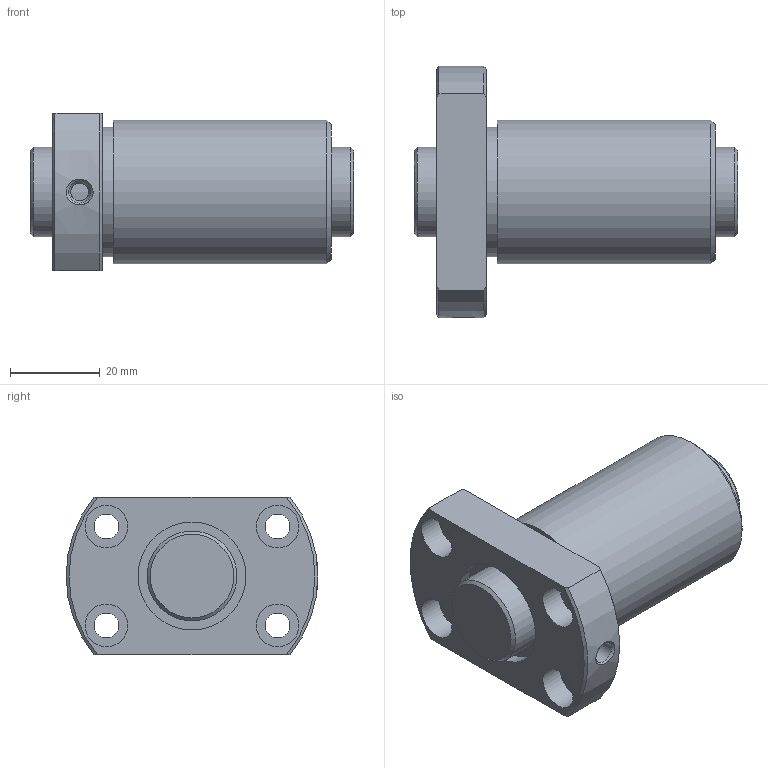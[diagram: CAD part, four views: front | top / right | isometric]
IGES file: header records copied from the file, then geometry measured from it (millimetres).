
Start section: Data from Parasolid IGES Translator 26.0.171, Copyright(c) 2006 Siemens PLM Software. All Rights Reserved.
Global section: file name: DIK2004-6RRG0+72LC0_000.igs; native system: By Siemens PLM Incorporated; preprocessor: XPlus GENERIC/IGES 26.0.171; author: Noname; organization: Noname; date: 20250113.094652; units: millimetre
Bounding box: 72 x 56 x 35 mm (x, y, z)
Surface area: 20230.6 mm2 (no closed solid volume)
Topology: 0 solids, 0 shells, 41 faces, 174 edges, 143 vertices
Faces by surface type: revolution 27, extrusion 14
